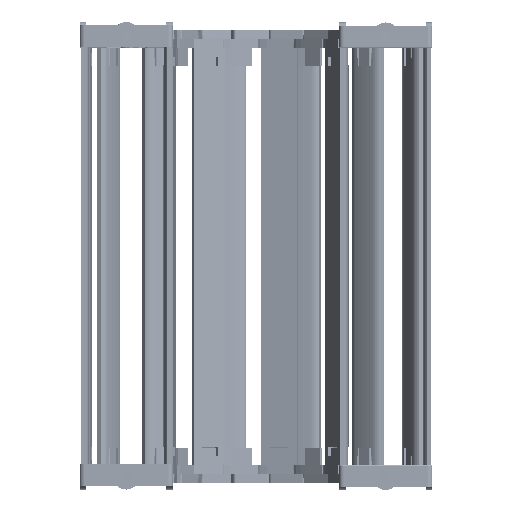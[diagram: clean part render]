
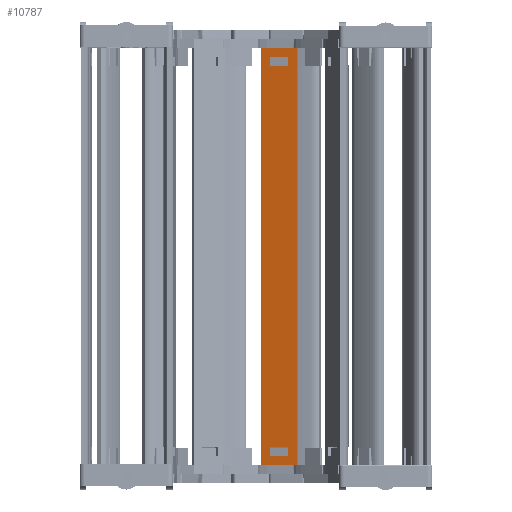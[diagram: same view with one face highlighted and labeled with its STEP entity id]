
A CAD part, top view. The second image highlights one B-rep face of the part: STEP entity #10787.
In plain terms, the highlighted planar face has unit normal (-0.259, 0, 0.966) as drawn and (0, 1, 0) by its records, which use the part's own axes.
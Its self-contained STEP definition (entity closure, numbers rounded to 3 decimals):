
#10207=DIRECTION('',(0.,0.,1.));
#10208=VECTOR('',#10207,15.8);
#10209=CARTESIAN_POINT('',(161.24,1.5,-7.9));
#10210=LINE('',#10209,#10208);
#10211=DIRECTION('',(-1.,0.,0.));
#10212=VECTOR('',#10211,176.);
#10213=CARTESIAN_POINT('',(161.24,1.5,7.9));
#10214=LINE('',#10213,#10212);
#10215=DIRECTION('',(0.,0.,-1.));
#10216=VECTOR('',#10215,15.8);
#10217=CARTESIAN_POINT('',(-14.76,1.5,7.9));
#10218=LINE('',#10217,#10216);
#10219=DIRECTION('',(1.,0.,0.));
#10220=VECTOR('',#10219,3.648);
#10221=CARTESIAN_POINT('',(153.622,1.5,4.075));
#10222=LINE('',#10221,#10220);
#10223=DIRECTION('',(0.,0.,-1.));
#10224=VECTOR('',#10223,8.15);
#10225=CARTESIAN_POINT('',(157.27,1.5,4.075));
#10226=LINE('',#10225,#10224);
#10227=DIRECTION('',(-1.,0.,0.));
#10228=VECTOR('',#10227,3.648);
#10229=CARTESIAN_POINT('',(157.27,1.5,-4.075));
#10230=LINE('',#10229,#10228);
#10231=DIRECTION('',(0.,0.,-1.));
#10232=VECTOR('',#10231,8.15);
#10233=CARTESIAN_POINT('',(-7.142,1.5,4.075));
#10234=LINE('',#10233,#10232);
#10235=DIRECTION('',(-1.,0.,0.));
#10236=VECTOR('',#10235,3.648);
#10237=CARTESIAN_POINT('',(-7.142,1.5,-4.075));
#10238=LINE('',#10237,#10236);
#10239=DIRECTION('',(0.,0.,1.));
#10240=VECTOR('',#10239,8.15);
#10241=CARTESIAN_POINT('',(-10.79,1.5,-4.075));
#10242=LINE('',#10241,#10240);
#10243=DIRECTION('',(1.,0.,0.));
#10244=VECTOR('',#10243,3.648);
#10245=CARTESIAN_POINT('',(-10.79,1.5,4.075));
#10246=LINE('',#10245,#10244);
#10251=DIRECTION('',(-1.,0.,0.));
#10252=VECTOR('',#10251,176.);
#10253=CARTESIAN_POINT('',(161.24,1.5,-7.9));
#10254=LINE('',#10253,#10252);
#10372=DIRECTION('',(0.,0.,-1.));
#10373=VECTOR('',#10372,8.15);
#10374=CARTESIAN_POINT('',(153.622,1.5,4.075));
#10375=LINE('',#10374,#10373);
#10557=CARTESIAN_POINT('',(157.27,1.5,4.075));
#10558=VERTEX_POINT('',#10557);
#10559=CARTESIAN_POINT('',(153.622,1.5,4.075));
#10560=VERTEX_POINT('',#10559);
#10601=CARTESIAN_POINT('',(153.622,1.5,-4.075));
#10602=VERTEX_POINT('',#10601);
#10603=CARTESIAN_POINT('',(157.27,1.5,-4.075));
#10604=VERTEX_POINT('',#10603);
#10605=CARTESIAN_POINT('',(161.24,1.5,7.9));
#10607=VERTEX_POINT('',#10605);
#10609=CARTESIAN_POINT('',(161.24,1.5,-7.9));
#10610=VERTEX_POINT('',#10609);
#10633=CARTESIAN_POINT('',(-7.142,1.5,4.075));
#10634=CARTESIAN_POINT('',(-7.142,1.5,-4.075));
#10635=VERTEX_POINT('',#10633);
#10636=VERTEX_POINT('',#10634);
#10637=CARTESIAN_POINT('',(-10.79,1.5,-4.075));
#10638=VERTEX_POINT('',#10637);
#10639=CARTESIAN_POINT('',(-10.79,1.5,4.075));
#10640=VERTEX_POINT('',#10639);
#10641=CARTESIAN_POINT('',(-14.76,1.5,7.9));
#10642=VERTEX_POINT('',#10641);
#10645=CARTESIAN_POINT('',(-14.76,1.5,-7.9));
#10646=VERTEX_POINT('',#10645);
#10756=CARTESIAN_POINT('',(192.98,1.5,10.061));
#10757=DIRECTION('',(0.,-1.,0.));
#10758=DIRECTION('',(0.,0.,-1.));
#10759=AXIS2_PLACEMENT_3D('',#10756,#10757,#10758);
#10760=PLANE('',#10759);
#10761=ORIENTED_EDGE('',*,*,#10695,.T.);
#10762=ORIENTED_EDGE('',*,*,#10721,.T.);
#10763=ORIENTED_EDGE('',*,*,#10734,.T.);
#10765=ORIENTED_EDGE('',*,*,#10764,.F.);
#10766=EDGE_LOOP('',(#10761,#10762,#10763,#10765));
#10767=FACE_OUTER_BOUND('',#10766,.F.);
#10769=ORIENTED_EDGE('',*,*,#10768,.F.);
#10770=ORIENTED_EDGE('',*,*,#10658,.T.);
#10772=ORIENTED_EDGE('',*,*,#10771,.T.);
#10774=ORIENTED_EDGE('',*,*,#10773,.T.);
#10775=EDGE_LOOP('',(#10769,#10770,#10772,#10774));
#10776=FACE_BOUND('',#10775,.F.);
#10778=ORIENTED_EDGE('',*,*,#10777,.T.);
#10780=ORIENTED_EDGE('',*,*,#10779,.T.);
#10782=ORIENTED_EDGE('',*,*,#10781,.T.);
#10784=ORIENTED_EDGE('',*,*,#10783,.T.);
#10785=EDGE_LOOP('',(#10778,#10780,#10782,#10784));
#10786=FACE_BOUND('',#10785,.F.);
#10787=ADVANCED_FACE('',(#10767,#10776,#10786),#10760,.F.);
#10658=EDGE_CURVE('',#10560,#10558,#10222,.T.);
#10695=EDGE_CURVE('',#10610,#10607,#10210,.T.);
#10721=EDGE_CURVE('',#10607,#10642,#10214,.T.);
#10734=EDGE_CURVE('',#10642,#10646,#10218,.T.);
#10764=EDGE_CURVE('',#10610,#10646,#10254,.T.);
#10768=EDGE_CURVE('',#10560,#10602,#10375,.T.);
#10771=EDGE_CURVE('',#10558,#10604,#10226,.T.);
#10773=EDGE_CURVE('',#10604,#10602,#10230,.T.);
#10777=EDGE_CURVE('',#10635,#10636,#10234,.T.);
#10779=EDGE_CURVE('',#10636,#10638,#10238,.T.);
#10781=EDGE_CURVE('',#10638,#10640,#10242,.T.);
#10783=EDGE_CURVE('',#10640,#10635,#10246,.T.);
